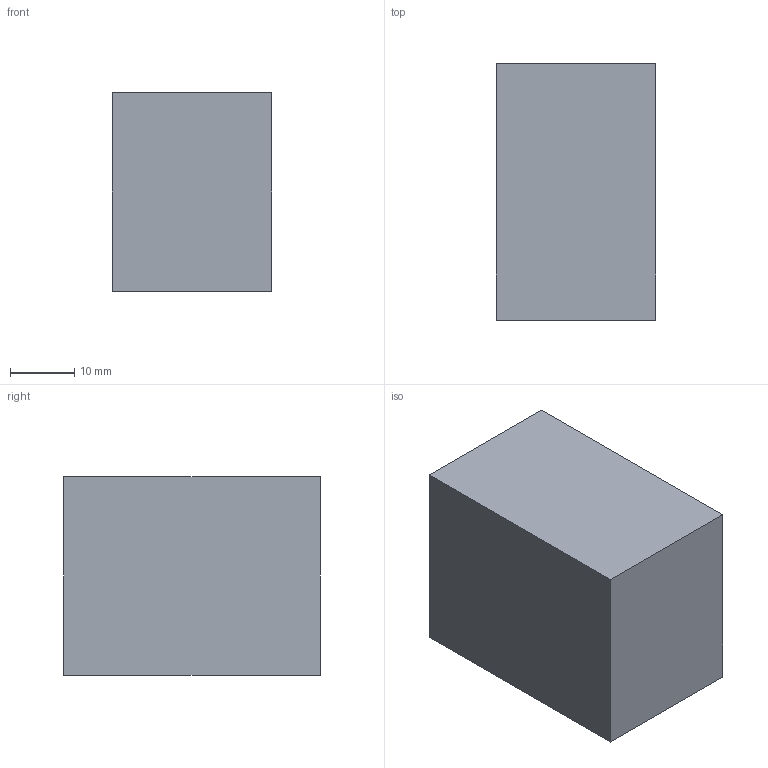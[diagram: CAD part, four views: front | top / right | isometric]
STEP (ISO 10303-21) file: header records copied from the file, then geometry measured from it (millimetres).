
FILE_DESCRIPTION(('Open CASCADE Model'),'2;1');
FILE_NAME('Open CASCADE Shape Model','2026-09-13T17:41:40',('Author'),( 'Open CASCADE'),'Open CASCADE STEP processor 7.8','Open CASCADE 7.8' ,'Unknown');
FILE_SCHEMA(('AUTOMOTIVE_DESIGN { 1 0 10303 214 1 1 1 1 }'));
Length unit declared in the file: millimetre
Products named in the file (1): Open CASCADE STEP translator 7.8 15
Bounding box: 24.8 x 40 x 31 mm (x, y, z)
Volume: 30752 mm3; surface area: 6001.6 mm2
Topology: 1 solids, 1 shells, 6 faces, 12 edges, 8 vertices
Faces by surface type: plane 6
Entity records: 322 total; most frequent: CARTESIAN_POINT 51, DIRECTION 50, LINE 36, VECTOR 36, ORIENTED_EDGE 24, PCURVE 24, DEFINITIONAL_REPRESENTATION 24, EDGE_CURVE 12
